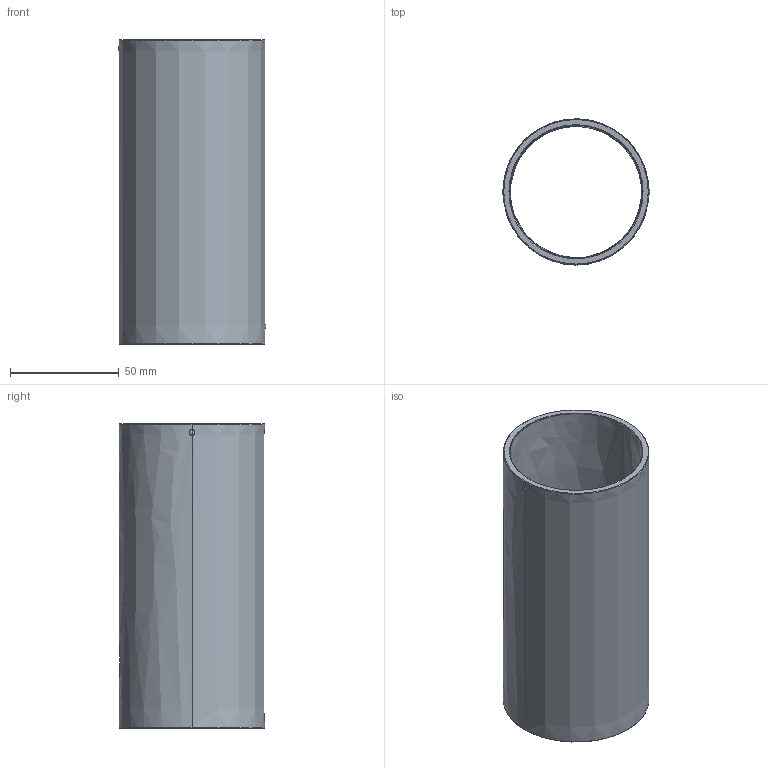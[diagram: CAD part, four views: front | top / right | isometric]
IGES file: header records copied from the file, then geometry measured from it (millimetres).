
Start section: START RECORD GO HERE.
Global section: file name: 730-60x140.igs; native system: DASSAULT SYSTEMES CATIA V5 R20 - www.3ds.com; preprocessor: CATIA Version 5 Release 20 ; author: Utente; organization: NB04-ASUS; date: 20210107.171859; units: millimetre
Bounding box: 67.99 x 67 x 140 mm (x, y, z)
Surface area: 58098.7 mm2 (no closed solid volume)
Topology: 0 solids, 0 shells, 44 faces, 242 edges, 240 vertices
Faces by surface type: revolution 36, plane 8
